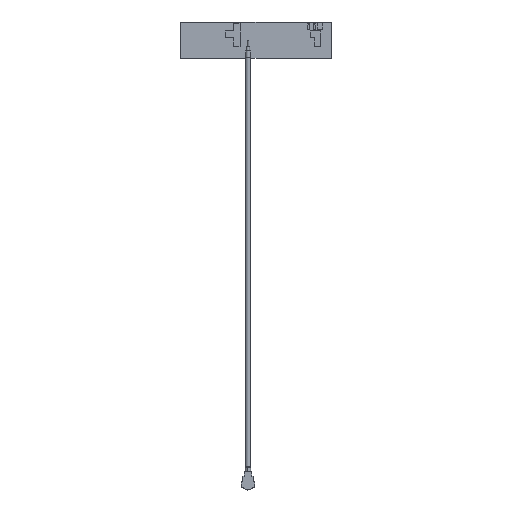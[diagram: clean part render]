
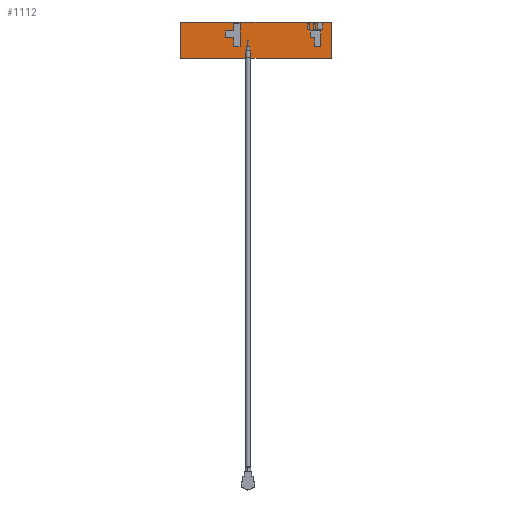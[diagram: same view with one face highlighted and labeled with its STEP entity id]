
A CAD part, top view. The second image highlights one B-rep face of the part: STEP entity #1112.
In plain terms, the highlighted planar face has unit normal (0, 0, 1).
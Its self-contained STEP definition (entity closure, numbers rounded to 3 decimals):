
#73=DIRECTION('',(-1.,0.,0.));
#74=VECTOR('',#73,35.2);
#75=CARTESIAN_POINT('',(14.89,7.02,0.4));
#76=LINE('',#75,#74);
#80=DIRECTION('',(0.,1.,0.));
#81=VECTOR('',#80,8.5);
#82=CARTESIAN_POINT('',(14.89,-1.48,0.4));
#83=LINE('',#82,#81);
#87=DIRECTION('',(1.,0.,0.));
#88=VECTOR('',#87,35.2);
#89=CARTESIAN_POINT('',(-20.31,-1.48,0.4));
#90=LINE('',#89,#88);
#94=DIRECTION('',(0.,-1.,0.));
#95=VECTOR('',#94,8.5);
#96=CARTESIAN_POINT('',(-20.31,7.02,0.4));
#97=LINE('',#96,#95);
#101=DIRECTION('',(-1.,0.,0.));
#102=VECTOR('',#101,0.5);
#103=CARTESIAN_POINT('',(9.89,6.57,0.4));
#104=LINE('',#103,#102);
#108=DIRECTION('',(0.,-1.,0.));
#109=VECTOR('',#108,1.4);
#110=CARTESIAN_POINT('',(9.39,6.57,0.4));
#111=LINE('',#110,#109);
#115=DIRECTION('',(1.,0.,0.));
#116=VECTOR('',#115,0.5);
#117=CARTESIAN_POINT('',(9.39,5.17,0.4));
#118=LINE('',#117,#116);
#122=DIRECTION('',(0.,1.,0.));
#123=VECTOR('',#122,1.4);
#124=CARTESIAN_POINT('',(9.89,5.17,0.4));
#125=LINE('',#124,#123);
#129=DIRECTION('',(-1.,0.,0.));
#130=VECTOR('',#129,0.5);
#131=CARTESIAN_POINT('',(11.24,6.57,0.4));
#132=LINE('',#131,#130);
#136=DIRECTION('',(0.,-1.,0.));
#137=VECTOR('',#136,1.4);
#138=CARTESIAN_POINT('',(10.74,6.57,0.4));
#139=LINE('',#138,#137);
#143=DIRECTION('',(1.,0.,0.));
#144=VECTOR('',#143,0.5);
#145=CARTESIAN_POINT('',(10.74,5.17,0.4));
#146=LINE('',#145,#144);
#150=DIRECTION('',(0.,1.,0.));
#151=VECTOR('',#150,1.4);
#152=CARTESIAN_POINT('',(11.24,5.17,0.4));
#153=LINE('',#152,#151);
#157=DIRECTION('',(0.,-1.,0.));
#158=VECTOR('',#157,1.55);
#159=CARTESIAN_POINT('',(-9.86,4.92,0.4));
#160=LINE('',#159,#158);
#164=DIRECTION('',(1.,0.,0.));
#165=VECTOR('',#164,1.9);
#166=CARTESIAN_POINT('',(-9.86,3.37,0.4));
#167=LINE('',#166,#165);
#171=DIRECTION('',(0.,-1.,0.));
#172=VECTOR('',#171,2.1);
#173=CARTESIAN_POINT('',(-7.96,3.37,0.4));
#174=LINE('',#173,#172);
#178=DIRECTION('',(1.,0.,0.));
#179=VECTOR('',#178,1.5);
#180=CARTESIAN_POINT('',(-7.96,1.27,0.4));
#181=LINE('',#180,#179);
#185=DIRECTION('',(0.,1.,0.));
#186=VECTOR('',#185,5.35);
#187=CARTESIAN_POINT('',(-6.46,1.27,0.4));
#188=LINE('',#187,#186);
#192=DIRECTION('',(-1.,0.,0.));
#193=VECTOR('',#192,1.5);
#194=CARTESIAN_POINT('',(-6.46,6.62,0.4));
#195=LINE('',#194,#193);
#199=DIRECTION('',(0.,-1.,0.));
#200=VECTOR('',#199,1.7);
#201=CARTESIAN_POINT('',(-7.96,6.62,0.4));
#202=LINE('',#201,#200);
#206=DIRECTION('',(-1.,0.,0.));
#207=VECTOR('',#206,1.9);
#208=CARTESIAN_POINT('',(-7.96,4.92,0.4));
#209=LINE('',#208,#207);
#213=DIRECTION('',(1.,0.,0.));
#214=VECTOR('',#213,0.99);
#215=CARTESIAN_POINT('',(10.,3.38,0.4));
#216=LINE('',#215,#214);
#220=DIRECTION('',(0.,-1.,0.));
#221=VECTOR('',#220,2.11);
#222=CARTESIAN_POINT('',(10.99,3.38,0.4));
#223=LINE('',#222,#221);
#227=DIRECTION('',(1.,0.,0.));
#228=VECTOR('',#227,1.54);
#229=CARTESIAN_POINT('',(10.99,1.27,0.4));
#230=LINE('',#229,#228);
#234=DIRECTION('',(0.,1.,0.));
#235=VECTOR('',#234,3.65);
#236=CARTESIAN_POINT('',(12.53,1.27,0.4));
#237=LINE('',#236,#235);
#241=DIRECTION('',(-1.,0.,0.));
#242=VECTOR('',#241,2.53);
#243=CARTESIAN_POINT('',(12.53,4.92,0.4));
#244=LINE('',#243,#242);
#248=DIRECTION('',(0.,-1.,0.));
#249=VECTOR('',#248,1.54);
#250=CARTESIAN_POINT('',(10.,4.92,0.4));
#251=LINE('',#250,#249);
#255=DIRECTION('',(0.,1.,0.));
#256=VECTOR('',#255,1.55);
#257=CARTESIAN_POINT('',(12.89,5.32,0.4));
#258=LINE('',#257,#256);
#262=DIRECTION('',(-1.,0.,0.));
#263=VECTOR('',#262,1.251);
#264=CARTESIAN_POINT('',(12.89,6.87,0.4));
#265=LINE('',#264,#263);
#269=DIRECTION('',(0.,-1.,0.));
#270=VECTOR('',#269,1.55);
#271=CARTESIAN_POINT('',(11.639,6.87,0.4));
#272=LINE('',#271,#270);
#276=DIRECTION('',(1.,0.,0.));
#277=VECTOR('',#276,1.251);
#278=CARTESIAN_POINT('',(11.639,5.32,0.4));
#279=LINE('',#278,#277);
#823=CARTESIAN_POINT('',(14.89,7.02,0.4));
#824=CARTESIAN_POINT('',(-20.31,7.02,0.4));
#825=VERTEX_POINT('',#823);
#826=VERTEX_POINT('',#824);
#827=CARTESIAN_POINT('',(-20.31,-1.48,0.4));
#828=VERTEX_POINT('',#827);
#829=CARTESIAN_POINT('',(14.89,-1.48,0.4));
#830=VERTEX_POINT('',#829);
#839=CARTESIAN_POINT('',(9.89,6.57,0.4));
#840=CARTESIAN_POINT('',(9.39,6.57,0.4));
#841=VERTEX_POINT('',#839);
#842=VERTEX_POINT('',#840);
#843=CARTESIAN_POINT('',(9.39,5.17,0.4));
#844=VERTEX_POINT('',#843);
#845=CARTESIAN_POINT('',(9.89,5.17,0.4));
#846=VERTEX_POINT('',#845);
#867=CARTESIAN_POINT('',(11.24,6.57,0.4));
#868=CARTESIAN_POINT('',(10.74,6.57,0.4));
#869=VERTEX_POINT('',#867);
#870=VERTEX_POINT('',#868);
#871=CARTESIAN_POINT('',(10.74,5.17,0.4));
#872=VERTEX_POINT('',#871);
#873=CARTESIAN_POINT('',(11.24,5.17,0.4));
#874=VERTEX_POINT('',#873);
#899=CARTESIAN_POINT('',(-9.86,4.92,0.4));
#900=CARTESIAN_POINT('',(-9.86,3.37,0.4));
#901=VERTEX_POINT('',#899);
#902=VERTEX_POINT('',#900);
#925=CARTESIAN_POINT('',(10.,3.38,0.4));
#926=CARTESIAN_POINT('',(10.99,3.38,0.4));
#927=VERTEX_POINT('',#925);
#928=VERTEX_POINT('',#926);
#929=CARTESIAN_POINT('',(10.99,1.27,0.4));
#930=VERTEX_POINT('',#929);
#931=CARTESIAN_POINT('',(12.53,1.27,0.4));
#932=VERTEX_POINT('',#931);
#933=CARTESIAN_POINT('',(12.53,4.92,0.4));
#934=VERTEX_POINT('',#933);
#935=CARTESIAN_POINT('',(-7.96,3.37,0.4));
#936=VERTEX_POINT('',#935);
#937=CARTESIAN_POINT('',(-7.96,1.27,0.4));
#938=VERTEX_POINT('',#937);
#939=CARTESIAN_POINT('',(-6.46,1.27,0.4));
#940=VERTEX_POINT('',#939);
#941=CARTESIAN_POINT('',(-6.46,6.62,0.4));
#942=VERTEX_POINT('',#941);
#943=CARTESIAN_POINT('',(-7.96,6.62,0.4));
#944=VERTEX_POINT('',#943);
#945=CARTESIAN_POINT('',(-7.96,4.92,0.4));
#946=VERTEX_POINT('',#945);
#949=CARTESIAN_POINT('',(10.,4.92,0.4));
#950=VERTEX_POINT('',#949);
#957=CARTESIAN_POINT('',(12.89,5.32,0.4));
#958=CARTESIAN_POINT('',(12.89,6.87,0.4));
#959=VERTEX_POINT('',#957);
#960=VERTEX_POINT('',#958);
#961=CARTESIAN_POINT('',(11.639,6.87,0.4));
#962=VERTEX_POINT('',#961);
#965=CARTESIAN_POINT('',(11.639,5.32,0.4));
#966=VERTEX_POINT('',#965);
#1039=CARTESIAN_POINT('',(0.,0.,0.4));
#1040=DIRECTION('',(0.,0.,1.));
#1041=DIRECTION('',(1.,0.,0.));
#1042=AXIS2_PLACEMENT_3D('',#1039,#1040,#1041);
#1043=PLANE('',#1042);
#1044=ORIENTED_EDGE('',*,*,#991,.F.);
#1045=ORIENTED_EDGE('',*,*,#1006,.F.);
#1046=ORIENTED_EDGE('',*,*,#1020,.F.);
#1047=ORIENTED_EDGE('',*,*,#1033,.F.);
#1048=EDGE_LOOP('',(#1044,#1045,#1046,#1047));
#1049=FACE_OUTER_BOUND('',#1048,.F.);
#1051=ORIENTED_EDGE('',*,*,#1050,.T.);
#1053=ORIENTED_EDGE('',*,*,#1052,.T.);
#1055=ORIENTED_EDGE('',*,*,#1054,.T.);
#1057=ORIENTED_EDGE('',*,*,#1056,.T.);
#1058=EDGE_LOOP('',(#1051,#1053,#1055,#1057));
#1059=FACE_BOUND('',#1058,.F.);
#1061=ORIENTED_EDGE('',*,*,#1060,.T.);
#1063=ORIENTED_EDGE('',*,*,#1062,.T.);
#1065=ORIENTED_EDGE('',*,*,#1064,.T.);
#1067=ORIENTED_EDGE('',*,*,#1066,.T.);
#1068=EDGE_LOOP('',(#1061,#1063,#1065,#1067));
#1069=FACE_BOUND('',#1068,.F.);
#1071=ORIENTED_EDGE('',*,*,#1070,.T.);
#1073=ORIENTED_EDGE('',*,*,#1072,.T.);
#1075=ORIENTED_EDGE('',*,*,#1074,.T.);
#1077=ORIENTED_EDGE('',*,*,#1076,.T.);
#1079=ORIENTED_EDGE('',*,*,#1078,.T.);
#1081=ORIENTED_EDGE('',*,*,#1080,.T.);
#1083=ORIENTED_EDGE('',*,*,#1082,.T.);
#1085=ORIENTED_EDGE('',*,*,#1084,.T.);
#1086=EDGE_LOOP('',(#1071,#1073,#1075,#1077,#1079,#1081,#1083,#1085));
#1087=FACE_BOUND('',#1086,.F.);
#1089=ORIENTED_EDGE('',*,*,#1088,.T.);
#1091=ORIENTED_EDGE('',*,*,#1090,.T.);
#1093=ORIENTED_EDGE('',*,*,#1092,.T.);
#1095=ORIENTED_EDGE('',*,*,#1094,.T.);
#1097=ORIENTED_EDGE('',*,*,#1096,.T.);
#1099=ORIENTED_EDGE('',*,*,#1098,.T.);
#1100=EDGE_LOOP('',(#1089,#1091,#1093,#1095,#1097,#1099));
#1101=FACE_BOUND('',#1100,.F.);
#1103=ORIENTED_EDGE('',*,*,#1102,.T.);
#1105=ORIENTED_EDGE('',*,*,#1104,.T.);
#1107=ORIENTED_EDGE('',*,*,#1106,.T.);
#1109=ORIENTED_EDGE('',*,*,#1108,.T.);
#1110=EDGE_LOOP('',(#1103,#1105,#1107,#1109));
#1111=FACE_BOUND('',#1110,.F.);
#1112=ADVANCED_FACE('',(#1049,#1059,#1069,#1087,#1101,#1111),#1043,.T.);
#991=EDGE_CURVE('',#825,#826,#76,.T.);
#1006=EDGE_CURVE('',#830,#825,#83,.T.);
#1020=EDGE_CURVE('',#828,#830,#90,.T.);
#1033=EDGE_CURVE('',#826,#828,#97,.T.);
#1050=EDGE_CURVE('',#841,#842,#104,.T.);
#1052=EDGE_CURVE('',#842,#844,#111,.T.);
#1054=EDGE_CURVE('',#844,#846,#118,.T.);
#1056=EDGE_CURVE('',#846,#841,#125,.T.);
#1060=EDGE_CURVE('',#869,#870,#132,.T.);
#1062=EDGE_CURVE('',#870,#872,#139,.T.);
#1064=EDGE_CURVE('',#872,#874,#146,.T.);
#1066=EDGE_CURVE('',#874,#869,#153,.T.);
#1070=EDGE_CURVE('',#901,#902,#160,.T.);
#1072=EDGE_CURVE('',#902,#936,#167,.T.);
#1074=EDGE_CURVE('',#936,#938,#174,.T.);
#1076=EDGE_CURVE('',#938,#940,#181,.T.);
#1078=EDGE_CURVE('',#940,#942,#188,.T.);
#1080=EDGE_CURVE('',#942,#944,#195,.T.);
#1082=EDGE_CURVE('',#944,#946,#202,.T.);
#1084=EDGE_CURVE('',#946,#901,#209,.T.);
#1088=EDGE_CURVE('',#927,#928,#216,.T.);
#1090=EDGE_CURVE('',#928,#930,#223,.T.);
#1092=EDGE_CURVE('',#930,#932,#230,.T.);
#1094=EDGE_CURVE('',#932,#934,#237,.T.);
#1096=EDGE_CURVE('',#934,#950,#244,.T.);
#1098=EDGE_CURVE('',#950,#927,#251,.T.);
#1102=EDGE_CURVE('',#959,#960,#258,.T.);
#1104=EDGE_CURVE('',#960,#962,#265,.T.);
#1106=EDGE_CURVE('',#962,#966,#272,.T.);
#1108=EDGE_CURVE('',#966,#959,#279,.T.);
